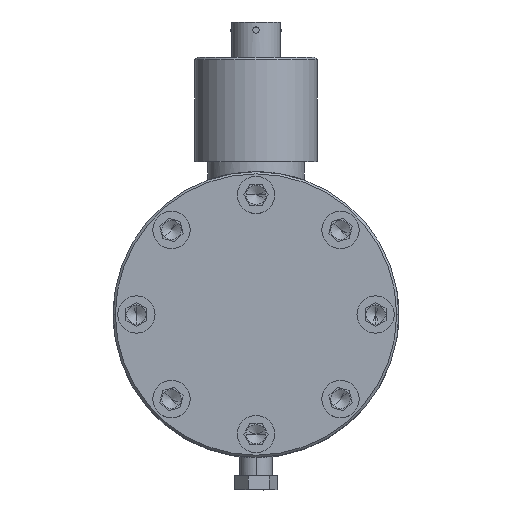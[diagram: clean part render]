
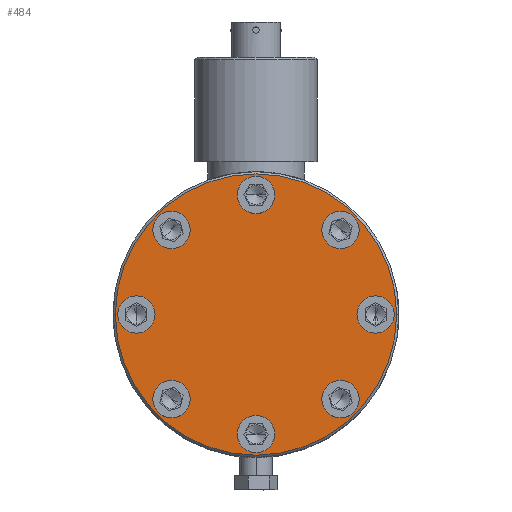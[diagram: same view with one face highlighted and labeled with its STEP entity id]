
A CAD part, top view. The second image highlights one B-rep face of the part: STEP entity #484.
In plain terms, the highlighted planar face has unit normal (0, 0, 1).
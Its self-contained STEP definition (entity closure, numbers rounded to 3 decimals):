
#484=ADVANCED_FACE('',(#1163,#1164,#1165,#1166,#1167,#1168,#1169,#1170,#1171),#1172,.T.);
#1163=FACE_OUTER_BOUND('',#2085,.T.);
#1164=FACE_BOUND('',#2086,.T.);
#1165=FACE_BOUND('',#2087,.T.);
#1166=FACE_BOUND('',#2088,.T.);
#1167=FACE_BOUND('',#2089,.T.);
#1168=FACE_BOUND('',#2090,.T.);
#1169=FACE_BOUND('',#2091,.T.);
#1170=FACE_BOUND('',#2092,.T.);
#1171=FACE_BOUND('',#2093,.T.);
#1172=PLANE('',#2094);
#2085=EDGE_LOOP('',(#3472,#3473));
#2086=EDGE_LOOP('',(#3474,#3475));
#2087=EDGE_LOOP('',(#3476,#3477));
#2088=EDGE_LOOP('',(#3478,#3479));
#2089=EDGE_LOOP('',(#3480,#3481));
#2090=EDGE_LOOP('',(#3482,#3483));
#2091=EDGE_LOOP('',(#3484,#3485));
#2092=EDGE_LOOP('',(#3486,#3487));
#2093=EDGE_LOOP('',(#3488,#3489));
#2094=AXIS2_PLACEMENT_3D('',#3490,#3491,#3492);
#3472=ORIENTED_EDGE('',*,*,#5567,.F.);
#3473=ORIENTED_EDGE('',*,*,#5481,.F.);
#3474=ORIENTED_EDGE('',*,*,#5188,.T.);
#3475=ORIENTED_EDGE('',*,*,#5576,.T.);
#3476=ORIENTED_EDGE('',*,*,#5197,.T.);
#3477=ORIENTED_EDGE('',*,*,#5577,.T.);
#3478=ORIENTED_EDGE('',*,*,#5202,.T.);
#3479=ORIENTED_EDGE('',*,*,#5578,.T.);
#3480=ORIENTED_EDGE('',*,*,#5207,.T.);
#3481=ORIENTED_EDGE('',*,*,#5579,.T.);
#3482=ORIENTED_EDGE('',*,*,#5212,.T.);
#3483=ORIENTED_EDGE('',*,*,#5580,.T.);
#3484=ORIENTED_EDGE('',*,*,#5217,.T.);
#3485=ORIENTED_EDGE('',*,*,#5581,.T.);
#3486=ORIENTED_EDGE('',*,*,#5222,.T.);
#3487=ORIENTED_EDGE('',*,*,#5582,.T.);
#3488=ORIENTED_EDGE('',*,*,#5227,.T.);
#3489=ORIENTED_EDGE('',*,*,#5583,.T.);
#3490=CARTESIAN_POINT('',(0.,0.,76.2));
#3491=DIRECTION('',(0.0,0.0,1.0));
#3492=DIRECTION('',(1.0,-0.0,0.0));
#5188=EDGE_CURVE('',#6136,#6133,#6137,.T.);
#5197=EDGE_CURVE('',#6152,#6149,#6153,.T.);
#5202=EDGE_CURVE('',#6161,#6158,#6162,.T.);
#5207=EDGE_CURVE('',#6170,#6167,#6171,.T.);
#5212=EDGE_CURVE('',#6179,#6176,#6180,.T.);
#5217=EDGE_CURVE('',#6188,#6185,#6189,.T.);
#5222=EDGE_CURVE('',#6197,#6194,#6198,.T.);
#5227=EDGE_CURVE('',#6206,#6203,#6207,.T.);
#5481=EDGE_CURVE('',#6642,#6644,#6645,.T.);
#5567=EDGE_CURVE('',#6644,#6642,#6767,.T.);
#5576=EDGE_CURVE('',#6133,#6136,#6776,.T.);
#5577=EDGE_CURVE('',#6149,#6152,#6777,.T.);
#5578=EDGE_CURVE('',#6158,#6161,#6778,.T.);
#5579=EDGE_CURVE('',#6167,#6170,#6779,.T.);
#5580=EDGE_CURVE('',#6176,#6179,#6780,.T.);
#5581=EDGE_CURVE('',#6185,#6188,#6781,.T.);
#5582=EDGE_CURVE('',#6194,#6197,#6782,.T.);
#5583=EDGE_CURVE('',#6203,#6206,#6783,.T.);
#6133=VERTEX_POINT('',#7525);
#6136=VERTEX_POINT('',#7529);
#6137=CIRCLE('',#7530,5.8);
#6149=VERTEX_POINT('',#7545);
#6152=VERTEX_POINT('',#7549);
#6153=CIRCLE('',#7550,5.8);
#6158=VERTEX_POINT('',#7556);
#6161=VERTEX_POINT('',#7560);
#6162=CIRCLE('',#7561,5.8);
#6167=VERTEX_POINT('',#7567);
#6170=VERTEX_POINT('',#7571);
#6171=CIRCLE('',#7572,5.8);
#6176=VERTEX_POINT('',#7578);
#6179=VERTEX_POINT('',#7582);
#6180=CIRCLE('',#7583,5.8);
#6185=VERTEX_POINT('',#7589);
#6188=VERTEX_POINT('',#7593);
#6189=CIRCLE('',#7594,5.8);
#6194=VERTEX_POINT('',#7600);
#6197=VERTEX_POINT('',#7604);
#6198=CIRCLE('',#7605,5.8);
#6203=VERTEX_POINT('',#7611);
#6206=VERTEX_POINT('',#7615);
#6207=CIRCLE('',#7616,5.8);
#6642=VERTEX_POINT('',#8517);
#6644=VERTEX_POINT('',#8520);
#6645=CIRCLE('',#8521,43.75);
#6767=CIRCLE('',#8688,43.75);
#6776=CIRCLE('',#8794,5.8);
#6777=CIRCLE('',#8795,5.8);
#6778=CIRCLE('',#8796,5.8);
#6779=CIRCLE('',#8797,5.8);
#6780=CIRCLE('',#8798,5.8);
#6781=CIRCLE('',#8799,5.8);
#6782=CIRCLE('',#8800,5.8);
#6783=CIRCLE('',#8801,5.8);
#7525=CARTESIAN_POINT('',(-5.8,37.2,76.2));
#7529=CARTESIAN_POINT('',(5.8,37.2,76.2));
#7530=AXIS2_PLACEMENT_3D('',#9865,#9866,#9867);
#7545=CARTESIAN_POINT('',(-30.406,22.203,76.2));
#7549=CARTESIAN_POINT('',(-22.203,30.406,76.2));
#7550=AXIS2_PLACEMENT_3D('',#9878,#9879,#9880);
#7556=CARTESIAN_POINT('',(-37.2,-5.8,76.2));
#7560=CARTESIAN_POINT('',(-37.2,5.8,76.2));
#7561=AXIS2_PLACEMENT_3D('',#9886,#9887,#9888);
#7567=CARTESIAN_POINT('',(-22.203,-30.406,76.2));
#7571=CARTESIAN_POINT('',(-30.406,-22.203,76.2));
#7572=AXIS2_PLACEMENT_3D('',#9894,#9895,#9896);
#7578=CARTESIAN_POINT('',(5.8,-37.2,76.2));
#7582=CARTESIAN_POINT('',(-5.8,-37.2,76.2));
#7583=AXIS2_PLACEMENT_3D('',#9902,#9903,#9904);
#7589=CARTESIAN_POINT('',(30.406,-22.203,76.2));
#7593=CARTESIAN_POINT('',(22.203,-30.406,76.2));
#7594=AXIS2_PLACEMENT_3D('',#9910,#9911,#9912);
#7600=CARTESIAN_POINT('',(37.2,5.8,76.2));
#7604=CARTESIAN_POINT('',(37.2,-5.8,76.2));
#7605=AXIS2_PLACEMENT_3D('',#9918,#9919,#9920);
#7611=CARTESIAN_POINT('',(22.203,30.406,76.2));
#7615=CARTESIAN_POINT('',(30.406,22.203,76.2));
#7616=AXIS2_PLACEMENT_3D('',#9926,#9927,#9928);
#8517=CARTESIAN_POINT('',(-43.75,0.,76.2));
#8520=CARTESIAN_POINT('',(43.75,0.,76.2));
#8521=AXIS2_PLACEMENT_3D('',#10277,#10278,#10279);
#8688=AXIS2_PLACEMENT_3D('',#10367,#10368,#10369);
#8794=AXIS2_PLACEMENT_3D('',#10373,#10374,#10375);
#8795=AXIS2_PLACEMENT_3D('',#10376,#10377,#10378);
#8796=AXIS2_PLACEMENT_3D('',#10379,#10380,#10381);
#8797=AXIS2_PLACEMENT_3D('',#10382,#10383,#10384);
#8798=AXIS2_PLACEMENT_3D('',#10385,#10386,#10387);
#8799=AXIS2_PLACEMENT_3D('',#10388,#10389,#10390);
#8800=AXIS2_PLACEMENT_3D('',#10391,#10392,#10393);
#8801=AXIS2_PLACEMENT_3D('',#10394,#10395,#10396);
#9865=CARTESIAN_POINT('',(0.0,37.2,76.2));
#9866=DIRECTION('',(0.0,0.0,-1.0));
#9867=DIRECTION('',(-1.0,0.0,0.0));
#9878=CARTESIAN_POINT('',(-26.304,26.304,76.2));
#9879=DIRECTION('',(-0.0,0.0,-1.0));
#9880=DIRECTION('',(-0.707,-0.707,0.0));
#9886=CARTESIAN_POINT('',(-37.2,0.0,76.2));
#9887=DIRECTION('',(0.0,0.0,-1.0));
#9888=DIRECTION('',(0.0,-1.0,0.0));
#9894=CARTESIAN_POINT('',(-26.304,-26.304,76.2));
#9895=DIRECTION('',(0.0,0.0,-1.0));
#9896=DIRECTION('',(0.707,-0.707,0.0));
#9902=CARTESIAN_POINT('',(0.,-37.2,76.2));
#9903=DIRECTION('',(0.0,0.0,-1.0));
#9904=DIRECTION('',(1.0,0.0,0.0));
#9910=CARTESIAN_POINT('',(26.304,-26.304,76.2));
#9911=DIRECTION('',(0.0,0.0,-1.0));
#9912=DIRECTION('',(0.707,0.707,0.0));
#9918=CARTESIAN_POINT('',(37.2,0.,76.2));
#9919=DIRECTION('',(0.0,0.0,-1.0));
#9920=DIRECTION('',(0.0,1.0,0.0));
#9926=CARTESIAN_POINT('',(26.304,26.304,76.2));
#9927=DIRECTION('',(0.0,0.0,-1.0));
#9928=DIRECTION('',(-0.707,0.707,0.0));
#10277=CARTESIAN_POINT('',(0.0,0.0,76.2));
#10278=DIRECTION('',(0.0,0.0,-1.0));
#10279=DIRECTION('',(-1.0,0.0,0.0));
#10367=CARTESIAN_POINT('',(0.0,0.0,76.2));
#10368=DIRECTION('',(0.0,0.0,-1.0));
#10369=DIRECTION('',(-1.0,0.0,0.0));
#10373=CARTESIAN_POINT('',(0.0,37.2,76.2));
#10374=DIRECTION('',(0.0,0.0,-1.0));
#10375=DIRECTION('',(-1.0,0.0,0.0));
#10376=CARTESIAN_POINT('',(-26.304,26.304,76.2));
#10377=DIRECTION('',(-0.0,0.0,-1.0));
#10378=DIRECTION('',(-0.707,-0.707,0.0));
#10379=CARTESIAN_POINT('',(-37.2,0.0,76.2));
#10380=DIRECTION('',(0.0,0.0,-1.0));
#10381=DIRECTION('',(0.0,-1.0,0.0));
#10382=CARTESIAN_POINT('',(-26.304,-26.304,76.2));
#10383=DIRECTION('',(0.0,0.0,-1.0));
#10384=DIRECTION('',(0.707,-0.707,0.0));
#10385=CARTESIAN_POINT('',(0.,-37.2,76.2));
#10386=DIRECTION('',(0.0,0.0,-1.0));
#10387=DIRECTION('',(1.0,0.0,0.0));
#10388=CARTESIAN_POINT('',(26.304,-26.304,76.2));
#10389=DIRECTION('',(0.0,0.0,-1.0));
#10390=DIRECTION('',(0.707,0.707,0.0));
#10391=CARTESIAN_POINT('',(37.2,0.,76.2));
#10392=DIRECTION('',(0.0,0.0,-1.0));
#10393=DIRECTION('',(0.0,1.0,0.0));
#10394=CARTESIAN_POINT('',(26.304,26.304,76.2));
#10395=DIRECTION('',(0.0,0.0,-1.0));
#10396=DIRECTION('',(-0.707,0.707,0.0));
